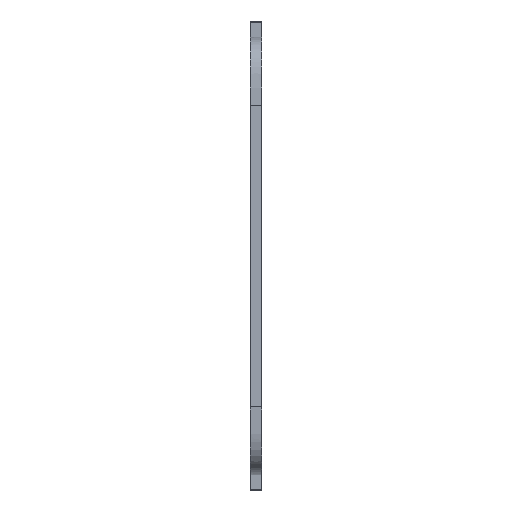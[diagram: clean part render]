
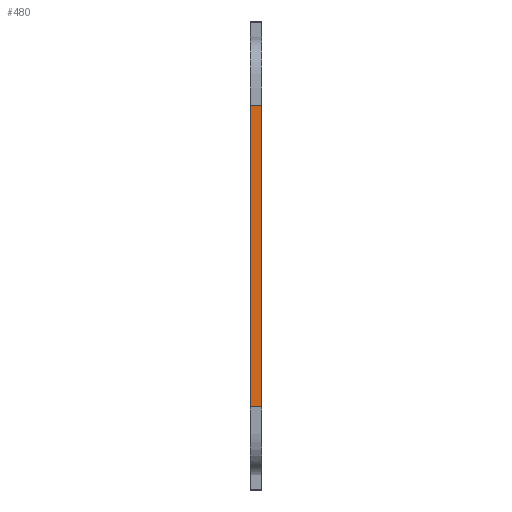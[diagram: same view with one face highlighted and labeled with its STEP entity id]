
A CAD part, front view. The second image highlights one B-rep face of the part: STEP entity #480.
In plain terms, the highlighted planar face has unit normal (0, -1, 0).
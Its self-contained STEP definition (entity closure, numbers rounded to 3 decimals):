
#60=PLANE('',#526);
#84=FACE_OUTER_BOUND('',#120,.T.);
#120=EDGE_LOOP('',(#447,#448,#449,#450));
#134=LINE('',#805,#172);
#143=LINE('',#1083,#181);
#157=LINE('',#1246,#195);
#158=LINE('',#1248,#196);
#172=VECTOR('',#562,10.);
#181=VECTOR('',#589,10.);
#195=VECTOR('',#625,10.);
#196=VECTOR('',#628,10.);
#224=VERTEX_POINT('',#794);
#226=VERTEX_POINT('',#803);
#239=VERTEX_POINT('',#1080);
#240=VERTEX_POINT('',#1082);
#275=EDGE_CURVE('',#224,#226,#134,.F.);
#295=EDGE_CURVE('',#239,#240,#143,.F.);
#317=EDGE_CURVE('',#240,#226,#157,.F.);
#318=EDGE_CURVE('',#239,#224,#158,.F.);
#447=ORIENTED_EDGE('',*,*,#317,.F.);
#448=ORIENTED_EDGE('',*,*,#295,.F.);
#449=ORIENTED_EDGE('',*,*,#318,.T.);
#450=ORIENTED_EDGE('',*,*,#275,.T.);
#480=ADVANCED_FACE('',(#84),#60,.T.);
#526=AXIS2_PLACEMENT_3D('',#1249,#629,#630);
#562=DIRECTION('',(1.,0.,0.));
#589=DIRECTION('',(1.,0.,0.));
#625=DIRECTION('',(0.,0.,-1.));
#628=DIRECTION('',(0.,0.,-1.));
#629=DIRECTION('center_axis',(0.,-1.,0.));
#630=DIRECTION('ref_axis',(0.,0.,1.));
#794=CARTESIAN_POINT('',(158.,-86.7,16.3));
#803=CARTESIAN_POINT('',(155.,-86.7,16.3));
#805=CARTESIAN_POINT('',(158.,-86.7,16.3));
#1080=CARTESIAN_POINT('',(158.,-86.7,-63.3));
#1082=CARTESIAN_POINT('',(155.,-86.7,-63.3));
#1083=CARTESIAN_POINT('',(158.,-86.7,-63.3));
#1246=CARTESIAN_POINT('',(155.,-86.7,-124.6));
#1248=CARTESIAN_POINT('',(158.,-86.7,-49.6));
#1249=CARTESIAN_POINT('Origin',(158.,-86.7,-63.5));
